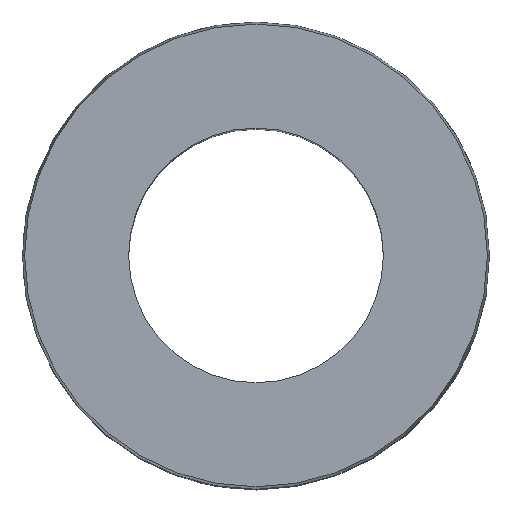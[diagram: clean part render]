
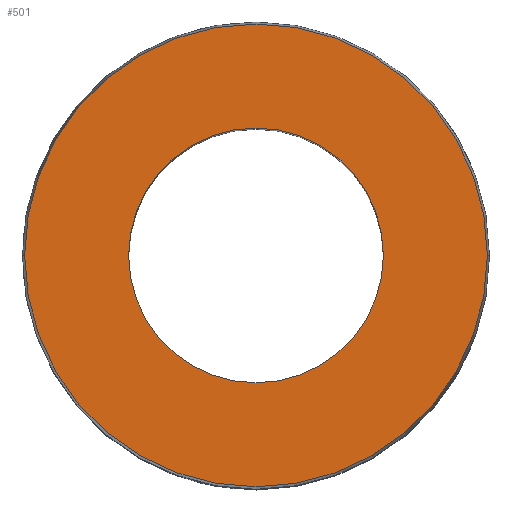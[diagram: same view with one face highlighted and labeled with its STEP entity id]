
A CAD part, top view. The second image highlights one B-rep face of the part: STEP entity #501.
In plain terms, the highlighted planar face has unit normal (0, 0, 1).
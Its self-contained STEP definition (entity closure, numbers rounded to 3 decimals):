
#49=CARTESIAN_POINT('',(-8.799,1.811,32.0));
#50=VERTEX_POINT('',#49);
#59=CARTESIAN_POINT('',(3.201,1.811,32.0));
#60=VERTEX_POINT('',#59);
#61=CARTESIAN_POINT('',(-2.799,1.811,32.0));
#62=DIRECTION('',(0.0,0.0,-1.0));
#63=DIRECTION('',(-1.0,0.0,0.0));
#64=AXIS2_PLACEMENT_3D('',#61,#62,#63);
#65=CIRCLE('',#64,6.);
#66=EDGE_CURVE('',#60,#50,#65,.T.);
#277=CARTESIAN_POINT('',(-13.699,1.811,32.0));
#278=VERTEX_POINT('',#277);
#285=CARTESIAN_POINT('',(8.101,1.811,32.0));
#286=VERTEX_POINT('',#285);
#287=CARTESIAN_POINT('',(-2.799,1.811,32.0));
#288=DIRECTION('',(0.0,0.0,-1.0));
#289=DIRECTION('',(-1.0,0.0,0.0));
#290=AXIS2_PLACEMENT_3D('',#287,#288,#289);
#291=CIRCLE('',#290,10.9);
#292=EDGE_CURVE('',#278,#286,#291,.T.);
#454=CARTESIAN_POINT('',(-2.799,1.811,32.0));
#455=DIRECTION('',(0.0,0.0,-1.0));
#456=DIRECTION('',(-1.0,0.0,0.0));
#457=AXIS2_PLACEMENT_3D('',#454,#455,#456);
#458=CIRCLE('',#457,10.9);
#459=EDGE_CURVE('',#286,#278,#458,.T.);
#482=CARTESIAN_POINT('',(-2.799,1.811,32.0));
#483=DIRECTION('',(0.0,0.0,-1.0));
#484=DIRECTION('',(-1.0,0.0,0.0));
#485=AXIS2_PLACEMENT_3D('',#482,#483,#484);
#486=PLANE('',#485);
#487=ORIENTED_EDGE('',*,*,#459,.F.);
#488=ORIENTED_EDGE('',*,*,#292,.F.);
#489=EDGE_LOOP('',(#487,#488));
#490=FACE_OUTER_BOUND('',#489,.T.);
#491=ORIENTED_EDGE('',*,*,#66,.T.);
#492=CARTESIAN_POINT('',(-2.799,1.811,32.0));
#493=DIRECTION('',(0.0,0.0,-1.0));
#494=DIRECTION('',(-1.0,0.0,0.0));
#495=AXIS2_PLACEMENT_3D('',#492,#493,#494);
#496=CIRCLE('',#495,6.);
#497=EDGE_CURVE('',#50,#60,#496,.T.);
#498=ORIENTED_EDGE('',*,*,#497,.T.);
#499=EDGE_LOOP('',(#491,#498));
#500=FACE_BOUND('',#499,.T.);
#501=ADVANCED_FACE('',(#490,#500),#486,.F.);
